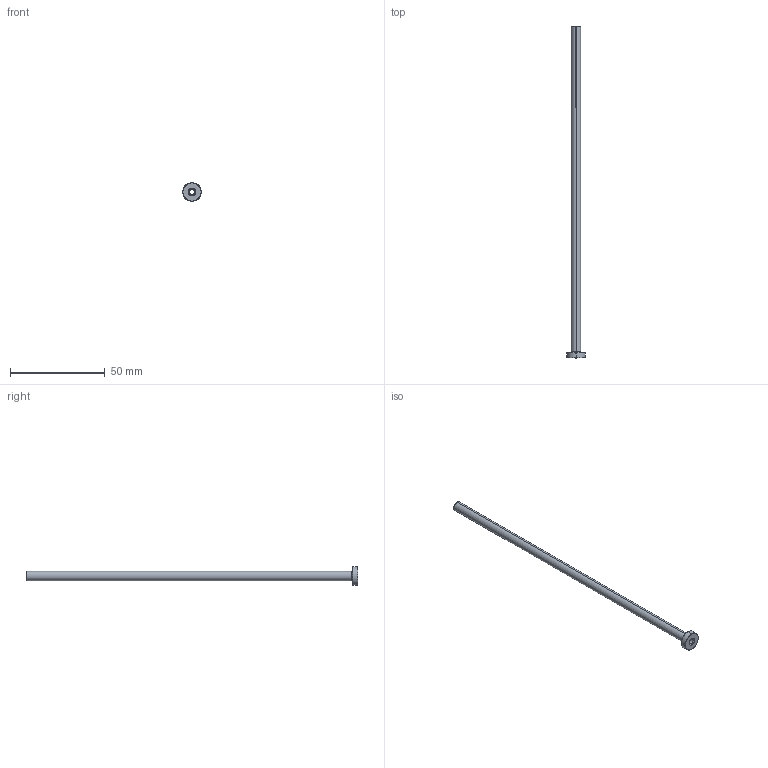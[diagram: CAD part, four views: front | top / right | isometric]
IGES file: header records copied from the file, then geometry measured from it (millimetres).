
Start section: SolidWorks IGES file using analytic representation for surfaces
Global section: file name: C:\Users\365admin\AppData\Local\Temp\InFlowConvert3DWorking\ESD025L175.igs; native system: SolidWorks 2019; preprocessor: SolidWorks 2019; author: 365admin; date: 220204.210605; units: millimetre
Bounding box: 10 x 175 x 10 mm (x, y, z)
Surface area: 4514.2 mm2 (no closed solid volume)
Topology: 0 solids, 0 shells, 21 faces, 264 edges, 264 vertices
Faces by surface type: revolution 16, bspline 5
